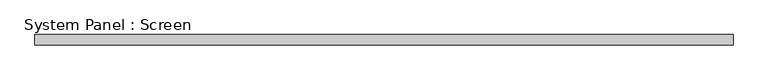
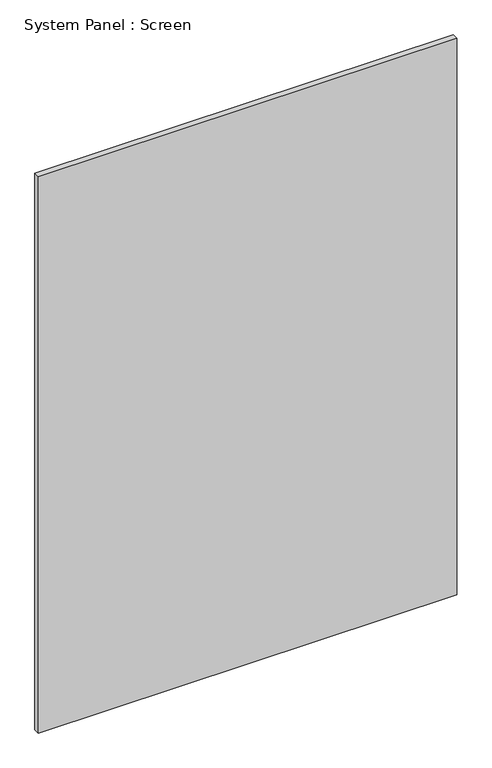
"""IFC4 building model written with IfcOpenShell, lengths in millimetres: plate geometry, System Panel : Screen."""

from ifc_helpers import new_model, si_unit, origin, origin_with_axes, place, context, project, spatial, polyline, outline, extrude, source, transform, mapped, element, save


def system_panel_screen_32642744(model_context):
    return source(origin(), model_context, "Body", "SweptSolid", [
        extrude(outline(polyline([(863.84765, -12.7), (-863.84765, -12.7), (-863.84765, 12.7), (863.84765, 12.7), (863.84765, -12.7)])), origin_with_axes(), (0.0, 0.0, 1.0), 2428.24),
    ])


if __name__ == "__main__":
    model = new_model("IFC4")
    model_context = context("Model", 3, world=origin())
    ifc_project = project(units=[si_unit("LENGTHUNIT", "METRE", prefix="MILLI")], contexts=[model_context])
    site = spatial("IfcSite", under=ifc_project)
    building = spatial("IfcBuilding", under=site)
    placement = place(None, origin())
    system_panel_screen_shape = system_panel_screen_32642744(model_context)
    element("IfcPlate", 1, ObjectType="System Panel : Screen", at=placement, inside=building, context=model_context, shape_type="MappedRepresentation", body=[
        mapped(system_panel_screen_shape, transform((0.0, 0.0, 0.0), x_axis=(1.0, 0.0, 0.0), y_axis=(0.0, 1.0, 0.0), z_axis=(0.0, 0.0, 1.0))),
    ])
    save(model, "model.ifc")
